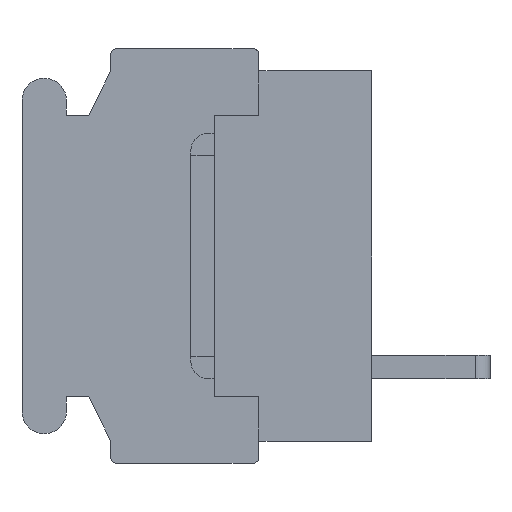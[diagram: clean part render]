
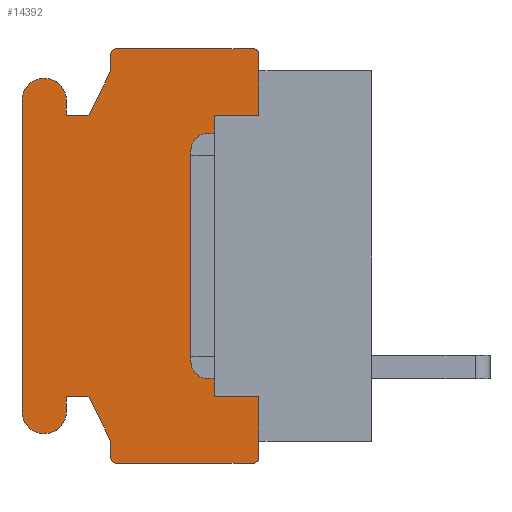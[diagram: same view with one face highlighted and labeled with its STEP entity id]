
A CAD part, left-side view. The second image highlights one B-rep face of the part: STEP entity #14392.
In plain terms, the highlighted planar face has unit normal (-1, 0, 0).
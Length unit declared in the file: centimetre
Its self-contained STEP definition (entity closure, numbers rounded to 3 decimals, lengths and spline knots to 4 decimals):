
#913=PLANE('',#23552);
#1664=VECTOR('',#15690,1.);
#2197=VECTOR('',#16811,1.);
#2198=VECTOR('',#16812,1.);
#2199=VECTOR('',#16815,1.);
#2200=VECTOR('',#16818,1.);
#2201=VECTOR('',#16819,1.);
#2202=VECTOR('',#16820,1.);
#2203=VECTOR('',#16821,1.);
#2204=VECTOR('',#16824,1.);
#2205=VECTOR('',#16827,1.);
#2206=VECTOR('',#16828,1.);
#2207=VECTOR('',#16829,1.);
#2208=VECTOR('',#16830,1.);
#2209=VECTOR('',#16833,1.);
#2210=VECTOR('',#16836,1.);
#2211=VECTOR('',#16837,1.);
#2212=VECTOR('',#16838,1.);
#2213=VECTOR('',#16839,1.);
#3244=LINE('',#19622,#1664);
#3777=LINE('',#21250,#2197);
#3778=LINE('',#21252,#2198);
#3779=LINE('',#21256,#2199);
#3780=LINE('',#21260,#2200);
#3781=LINE('',#21262,#2201);
#3782=LINE('',#21264,#2202);
#3783=LINE('',#21266,#2203);
#3784=LINE('',#21270,#2204);
#3785=LINE('',#21274,#2205);
#3786=LINE('',#21276,#2206);
#3787=LINE('',#21278,#2207);
#3788=LINE('',#21280,#2208);
#3789=LINE('',#21284,#2209);
#3790=LINE('',#21288,#2210);
#3791=LINE('',#21289,#2211);
#3792=LINE('',#21291,#2212);
#3793=LINE('',#21292,#2213);
#4765=VERTEX_POINT('',#19623);
#4766=VERTEX_POINT('',#19624);
#4852=VERTEX_POINT('',#19871);
#4869=VERTEX_POINT('',#19910);
#5244=VERTEX_POINT('',#21251);
#5245=VERTEX_POINT('',#21253);
#5246=VERTEX_POINT('',#21255);
#5247=VERTEX_POINT('',#21257);
#5248=VERTEX_POINT('',#21259);
#5249=VERTEX_POINT('',#21261);
#5250=VERTEX_POINT('',#21263);
#5251=VERTEX_POINT('',#21265);
#5252=VERTEX_POINT('',#21267);
#5253=VERTEX_POINT('',#21269);
#5254=VERTEX_POINT('',#21271);
#5255=VERTEX_POINT('',#21273);
#5256=VERTEX_POINT('',#21275);
#5257=VERTEX_POINT('',#21277);
#5258=VERTEX_POINT('',#21279);
#5259=VERTEX_POINT('',#21281);
#5260=VERTEX_POINT('',#21283);
#5261=VERTEX_POINT('',#21285);
#5262=VERTEX_POINT('',#21287);
#5263=VERTEX_POINT('',#21290);
#5806=CIRCLE('',#23553,0.02);
#5807=CIRCLE('',#23554,0.02);
#5808=CIRCLE('',#23555,0.075);
#5809=CIRCLE('',#23556,0.075);
#5810=CIRCLE('',#23557,0.02);
#5811=CIRCLE('',#23558,0.02);
#6620=EDGE_CURVE('',#4765,#4766,#3244,.T.);
#7352=EDGE_CURVE('',#5244,#4852,#3777,.T.);
#7353=EDGE_CURVE('',#5245,#4852,#3778,.T.);
#7354=EDGE_CURVE('',#5246,#5245,#5806,.T.);
#7355=EDGE_CURVE('',#5247,#5246,#3779,.T.);
#7356=EDGE_CURVE('',#5248,#5247,#5807,.T.);
#7357=EDGE_CURVE('',#5249,#5248,#3780,.T.);
#7358=EDGE_CURVE('',#5250,#5249,#3781,.T.);
#7359=EDGE_CURVE('',#5251,#5250,#3782,.T.);
#7360=EDGE_CURVE('',#5252,#5251,#3783,.T.);
#7361=EDGE_CURVE('',#5253,#5252,#5808,.T.);
#7362=EDGE_CURVE('',#5254,#5253,#3784,.T.);
#7363=EDGE_CURVE('',#5255,#5254,#5809,.T.);
#7364=EDGE_CURVE('',#5256,#5255,#3785,.T.);
#7365=EDGE_CURVE('',#5257,#5256,#3786,.T.);
#7366=EDGE_CURVE('',#5258,#5257,#3787,.T.);
#7367=EDGE_CURVE('',#5259,#5258,#3788,.T.);
#7368=EDGE_CURVE('',#5260,#5259,#5810,.T.);
#7369=EDGE_CURVE('',#5261,#5260,#3789,.T.);
#7370=EDGE_CURVE('',#5262,#5261,#5811,.T.);
#7371=EDGE_CURVE('',#4869,#5262,#3790,.T.);
#7372=EDGE_CURVE('',#4869,#5263,#3791,.T.);
#7373=EDGE_CURVE('',#5263,#4765,#3792,.T.);
#7374=EDGE_CURVE('',#4766,#5244,#3793,.T.);
#10950=ORIENTED_EDGE('',*,*,#7352,.T.);
#10951=ORIENTED_EDGE('',*,*,#7353,.F.);
#10952=ORIENTED_EDGE('',*,*,#7354,.F.);
#10953=ORIENTED_EDGE('',*,*,#7355,.F.);
#10954=ORIENTED_EDGE('',*,*,#7356,.F.);
#10955=ORIENTED_EDGE('',*,*,#7357,.F.);
#10956=ORIENTED_EDGE('',*,*,#7358,.F.);
#10957=ORIENTED_EDGE('',*,*,#7359,.F.);
#10958=ORIENTED_EDGE('',*,*,#7360,.F.);
#10959=ORIENTED_EDGE('',*,*,#7361,.F.);
#10960=ORIENTED_EDGE('',*,*,#7362,.F.);
#10961=ORIENTED_EDGE('',*,*,#7363,.F.);
#10962=ORIENTED_EDGE('',*,*,#7364,.F.);
#10963=ORIENTED_EDGE('',*,*,#7365,.F.);
#10964=ORIENTED_EDGE('',*,*,#7366,.F.);
#10965=ORIENTED_EDGE('',*,*,#7367,.F.);
#10966=ORIENTED_EDGE('',*,*,#7368,.F.);
#10967=ORIENTED_EDGE('',*,*,#7369,.F.);
#10968=ORIENTED_EDGE('',*,*,#7370,.F.);
#10969=ORIENTED_EDGE('',*,*,#7371,.F.);
#10970=ORIENTED_EDGE('',*,*,#7372,.T.);
#10971=ORIENTED_EDGE('',*,*,#7373,.T.);
#10972=ORIENTED_EDGE('',*,*,#6620,.T.);
#10973=ORIENTED_EDGE('',*,*,#7374,.T.);
#12732=EDGE_LOOP('',(#10950,#10951,#10952,#10953,#10954,#10955,#10956,#10957,
#10958,#10959,#10960,#10961,#10962,#10963,#10964,#10965,#10966,#10967,#10968,
#10969,#10970,#10971,#10972,#10973));
#13588=FACE_BOUND('',#12732,.T.);
#14392=ADVANCED_FACE('',(#13588),#913,.F.);
#15690=DIRECTION('',(0.,0.,1.));
#16810=DIRECTION('',(1.,0.,0.));
#16811=DIRECTION('',(0.,0.,1.));
#16812=DIRECTION('',(0.,0.,-1.));
#16813=DIRECTION('',(1.,0.,0.));
#16814=DIRECTION('',(0.,0.,-0.02));
#16815=DIRECTION('',(0.,-1.,0.));
#16816=DIRECTION('',(1.,0.,0.));
#16817=DIRECTION('',(0.,0.,-0.02));
#16818=DIRECTION('',(0.,0.,1.));
#16819=DIRECTION('',(0.,-0.447,0.894));
#16820=DIRECTION('',(0.,-1.,0.));
#16821=DIRECTION('',(0.,0.,-1.));
#16822=DIRECTION('',(1.,0.,0.));
#16823=DIRECTION('',(0.,0.,-0.075));
#16824=DIRECTION('',(0.,0.,1.));
#16825=DIRECTION('',(1.,0.,0.));
#16826=DIRECTION('',(0.,0.,-0.075));
#16827=DIRECTION('',(0.,0.,-1.));
#16828=DIRECTION('',(0.,1.,0.));
#16829=DIRECTION('',(0.,0.447,0.894));
#16830=DIRECTION('',(0.,0.,1.));
#16831=DIRECTION('',(1.,0.,0.));
#16832=DIRECTION('',(0.,0.,-0.02));
#16833=DIRECTION('',(0.,1.,0.));
#16834=DIRECTION('',(1.,0.,0.));
#16835=DIRECTION('',(0.,0.,-0.02));
#16836=DIRECTION('',(0.,0.,-1.));
#16837=DIRECTION('',(0.,0.,1.));
#16838=DIRECTION('',(0.,1.,0.));
#16839=DIRECTION('',(0.,-1.,0.));
#19622=CARTESIAN_POINT('',(-0.762,0.53,0.));
#19623=CARTESIAN_POINT('',(-0.762,0.53,-0.475));
#19624=CARTESIAN_POINT('',(-0.762,0.53,0.475));
#19871=CARTESIAN_POINT('',(-0.762,0.38,0.625));
#19910=CARTESIAN_POINT('',(-0.762,0.38,-0.625));
#21249=CARTESIAN_POINT('',(-0.762,0.6059,0.));
#21250=CARTESIAN_POINT('',(-0.762,0.38,0.275));
#21251=CARTESIAN_POINT('',(-0.762,0.38,0.475));
#21252=CARTESIAN_POINT('',(-0.762,0.38,0.68));
#21253=CARTESIAN_POINT('',(-0.762,0.38,0.68));
#21254=CARTESIAN_POINT('',(-0.762,0.4,0.68));
#21255=CARTESIAN_POINT('',(-0.762,0.4,0.7));
#21256=CARTESIAN_POINT('',(-0.762,0.86,0.7));
#21257=CARTESIAN_POINT('',(-0.762,0.86,0.7));
#21258=CARTESIAN_POINT('',(-0.762,0.86,0.68));
#21259=CARTESIAN_POINT('',(-0.762,0.88,0.68));
#21260=CARTESIAN_POINT('',(-0.762,0.88,0.625));
#21261=CARTESIAN_POINT('',(-0.762,0.88,0.625));
#21262=CARTESIAN_POINT('',(-0.762,0.955,0.475));
#21263=CARTESIAN_POINT('',(-0.762,0.955,0.475));
#21264=CARTESIAN_POINT('',(-0.762,1.03,0.475));
#21265=CARTESIAN_POINT('',(-0.762,1.03,0.475));
#21266=CARTESIAN_POINT('',(-0.762,1.03,0.525));
#21267=CARTESIAN_POINT('',(-0.762,1.03,0.525));
#21268=CARTESIAN_POINT('',(-0.762,1.105,0.525));
#21269=CARTESIAN_POINT('',(-0.762,1.18,0.525));
#21270=CARTESIAN_POINT('',(-0.762,1.18,-0.525));
#21271=CARTESIAN_POINT('',(-0.762,1.18,-0.525));
#21272=CARTESIAN_POINT('',(-0.762,1.105,-0.525));
#21273=CARTESIAN_POINT('',(-0.762,1.03,-0.525));
#21274=CARTESIAN_POINT('',(-0.762,1.03,-0.475));
#21275=CARTESIAN_POINT('',(-0.762,1.03,-0.475));
#21276=CARTESIAN_POINT('',(-0.762,0.955,-0.475));
#21277=CARTESIAN_POINT('',(-0.762,0.955,-0.475));
#21278=CARTESIAN_POINT('',(-0.762,0.88,-0.625));
#21279=CARTESIAN_POINT('',(-0.762,0.88,-0.625));
#21280=CARTESIAN_POINT('',(-0.762,0.88,-0.68));
#21281=CARTESIAN_POINT('',(-0.762,0.88,-0.68));
#21282=CARTESIAN_POINT('',(-0.762,0.86,-0.68));
#21283=CARTESIAN_POINT('',(-0.762,0.86,-0.7));
#21284=CARTESIAN_POINT('',(-0.762,0.4,-0.7));
#21285=CARTESIAN_POINT('',(-0.762,0.4,-0.7));
#21286=CARTESIAN_POINT('',(-0.762,0.4,-0.68));
#21287=CARTESIAN_POINT('',(-0.762,0.38,-0.68));
#21288=CARTESIAN_POINT('',(-0.762,0.38,-0.625));
#21289=CARTESIAN_POINT('',(-0.762,0.38,-0.275));
#21290=CARTESIAN_POINT('',(-0.762,0.38,-0.475));
#21291=CARTESIAN_POINT('',(-0.762,0.5304,-0.475));
#21292=CARTESIAN_POINT('',(-0.762,0.5304,0.475));
#23552=AXIS2_PLACEMENT_3D('',#21249,#16810,$);
#23553=AXIS2_PLACEMENT_3D('',#21254,#16813,#16814);
#23554=AXIS2_PLACEMENT_3D('',#21258,#16816,#16817);
#23555=AXIS2_PLACEMENT_3D('',#21268,#16822,#16823);
#23556=AXIS2_PLACEMENT_3D('',#21272,#16825,#16826);
#23557=AXIS2_PLACEMENT_3D('',#21282,#16831,#16832);
#23558=AXIS2_PLACEMENT_3D('',#21286,#16834,#16835);
